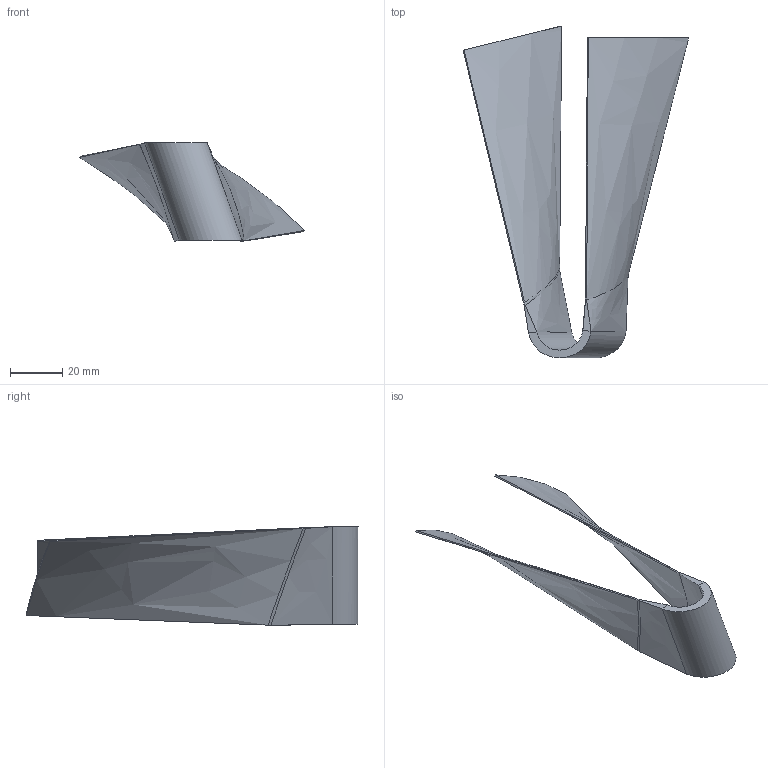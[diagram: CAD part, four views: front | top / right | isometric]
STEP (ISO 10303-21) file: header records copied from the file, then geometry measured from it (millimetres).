
FILE_DESCRIPTION(('CATIA V5 STEP Exchange'),'2;1');
FILE_NAME('E:\WAT\Sprezarka\122_00_00_Tlocznik2\Tlocznik2_stp\Lopatka_kpl.stp','2022-12-06T12:23:06+00:00',('none'),('none'),'CATIA Version 5 Release 20 SP 4 (IN-10)','CATIA V5 STEP AP214','none');
FILE_SCHEMA(('AUTOMOTIVE_DESIGN { 1 0 10303 214 1 1 1 1 }'));
Length unit declared in the file: millimetre
Products named in the file (1): Lopatka_kpl
Bounding box: 86.67 x 127.58 x 37.89 mm (x, y, z)
Volume: 17328.6 mm3; surface area: 22293.1 mm2
Topology: 1 solids, 1 shells, 28 faces, 94 edges, 92 vertices
Faces by surface type: bspline 24, cylinder 2, plane 2
Entity records: 2335 total; most frequent: CARTESIAN_POINT 1441, ORIENTED_EDGE 144, B_SPLINE_CURVE_WITH_KNOTS 74, EDGE_CURVE 72, PRESENTATION_STYLE_ASSIGNMENT 55, VERTEX_POINT 46, SURFACE_STYLE_USAGE 29, SURFACE_SIDE_STYLE 29
